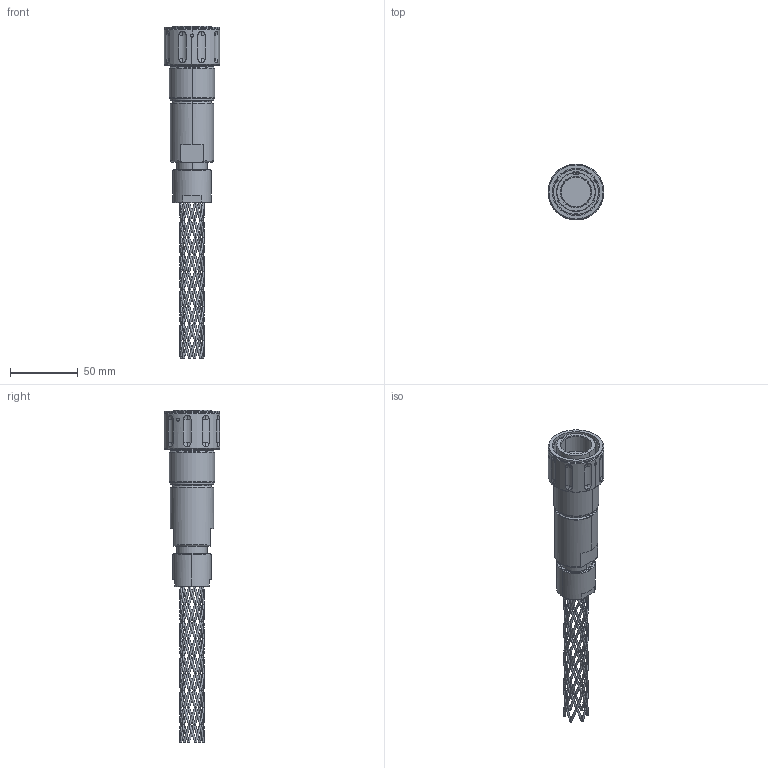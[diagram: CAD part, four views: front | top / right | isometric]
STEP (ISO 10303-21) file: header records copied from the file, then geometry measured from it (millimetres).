
FILE_DESCRIPTION (( 'STEP AP214' ), '1' );
FILE_NAME ('QLINK-PGBX-19XX-GXXX-RA.STEP', '2025-12-09T15:45:51', ( '' ), ( '' ), 'SwSTEP 2.0', 'SolidWorks 2024', '' );
FILE_SCHEMA (( 'AUTOMOTIVE_DESIGN' ));
Products named in the file (1): QLINK-PGBX-19XX-GXXX-RA
Bounding box: 41.15 x 41.15 x 244.77 mm (x, y, z)
Volume: 103718.4 mm3; surface area: 29619 mm2
Topology: 5 solids, 5 shells, 464 faces, 1243 edges, 705 vertices
Faces by surface type: bspline 221, cylinder 86, plane 70, cone 39, sphere 36, torus 12
Entity records: 108137 total; most frequent: CARTESIAN_POINT 99021, ORIENTED_EDGE 2486, DIRECTION 1323, EDGE_CURVE 1243, VERTEX_POINT 705, AXIS2_PLACEMENT_3D 557, EDGE_LOOP 498, FACE_OUTER_BOUND 464
